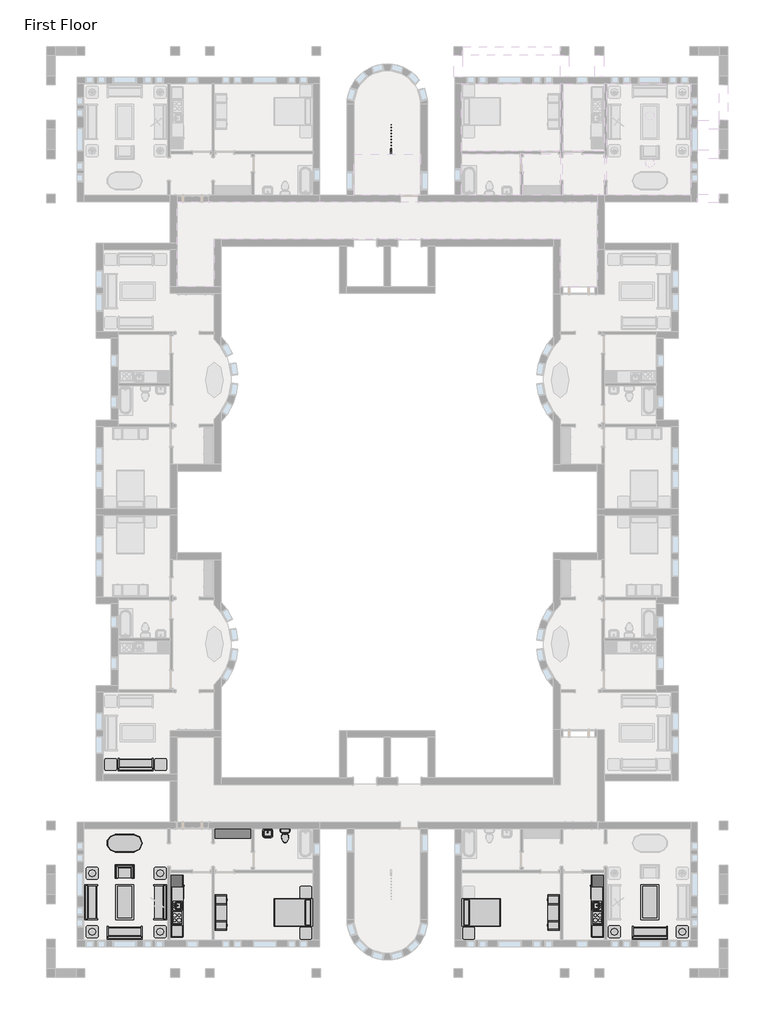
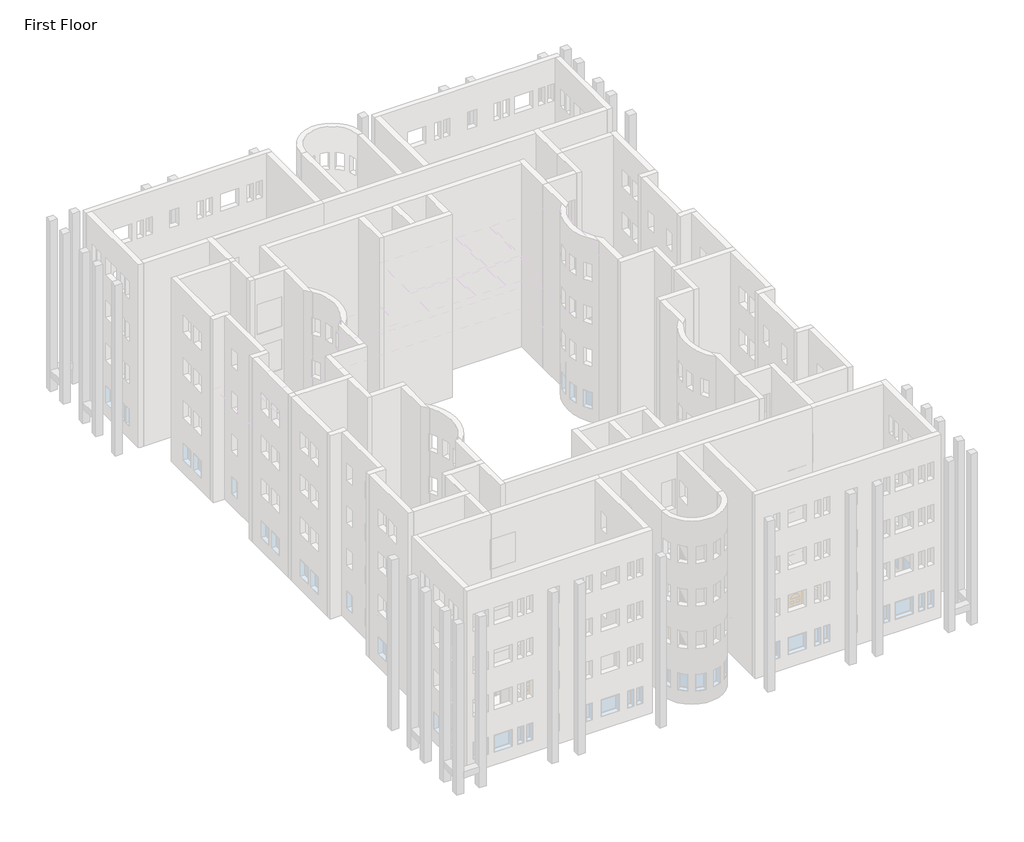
# One storey, part 19 of 21: 25 furniture elements, 2 flow terminals, 2 proxies, 1 railing.
"""IFC4 building model written with IfcOpenShell, lengths in millimetres."""

from ifc_helpers import new_model, si_unit, frame, origin, place, context, project, spatial, polyline, outline, extrude, transform, mapped, element, save
from components import proxy_64a468c4, proxy_b7eaed23, flow_terminal_0aeb31e3, toilet_domestic_3d_toilet_domestic_3d_f7549cf7, toilet_domestic_3d_toilet_domestic_3d_183bbd19, furniture_096e7f55, furniture_097b173b, chair_corbu_chair_corbu_2764bdef, furniture_7c473f12, furniture_ddc78764, furniture_328d9d47, furniture_4ef38d96, furniture_dde8a40a, furniture_cd93a443, furniture_c9413244, furniture_2c34a4f9, furniture_3a588284, furniture_1befe2a2

model = new_model("IFC4")

# Units and contexts
model_context = context("Model", 3, world=origin())
ifc_project = project(units=[si_unit("LENGTHUNIT", "METRE", prefix="MILLI")], contexts=[model_context])

# Site, building, storey
site = spatial("IfcSite", under=ifc_project)
building = spatial("IfcBuilding", under=site)
storey = spatial("IfcBuildingStorey", under=building, Name="First Floor", Elevation=0.0)

# Proxies
placement = place(None, origin())
proxy_shape = proxy_64a468c4(model_context)
element("IfcBuildingElementProxy", 1, Name="Kitchenette - Medium : 8'6\"", ObjectType="Kitchenette - Medium : 8'6\"", at=placement, inside=storey, context=model_context, shape_type="MappedRepresentation", body=[
    mapped(proxy_shape, transform((-26236.5839563, -32528.6822699, 0.0), x_axis=(0.0, 1.0, 0.0), y_axis=(-1.0, 0.0, 0.0), z_axis=(0.0, 0.0, 1.0))),
])
proxy_2_shape = proxy_b7eaed23(model_context)
element("IfcBuildingElementProxy", 2, Name="Kitchenette - Medium : 8'6\"", ObjectType="Kitchenette - Medium : 8'6\"", at=placement, inside=storey, context=model_context, shape_type="MappedRepresentation", body=[
    mapped(proxy_2_shape, transform((-3887.7589563, -32528.6822699, 0.0), x_axis=(0.0, 1.0, 0.0), y_axis=(-1.0, 0.0, 0.0), z_axis=(0.0, 0.0, 1.0))),
])

# Flow terminals
flow_terminal_shape = flow_terminal_0aeb31e3(model_context)
element("IfcFlowTerminal", 3, ObjectType="Sink Vanity-Square : 24\" x 19\"", at=placement, inside=storey, context=model_context, shape_type="MappedRepresentation", body=[
    mapped(flow_terminal_shape, transform((-21259.5856969, -28397.4762144, 0.0), x_axis=(1.0, 0.0, 0.0), y_axis=(0.0, 1.0, 0.0), z_axis=(0.0, 0.0, 1.0))),
])
toilet_domestic_3d_toilet_domestic_3d_shape = toilet_domestic_3d_toilet_domestic_3d_f7549cf7(model_context)
toilet_domestic_3d_toilet_domestic_3d_2_shape = toilet_domestic_3d_toilet_domestic_3d_183bbd19(model_context)
element("IfcFlowTerminal", 4, ObjectType="Toilet-Domestic-3D : Toilet-Domestic-3D", at=placement, inside=storey, context=model_context, shape_type="MappedRepresentation", body=[
    mapped(toilet_domestic_3d_toilet_domestic_3d_shape, transform((-20342.1962539, -28631.7530376, 0.0), x_axis=(1.0, 0.0, 0.0), y_axis=(0.0, 1.0, 0.0), z_axis=(0.0, 0.0, 1.0))),
    mapped(toilet_domestic_3d_toilet_domestic_3d_2_shape, transform((-20342.1962539, -28631.7530376, 0.0), x_axis=(1.0, 0.0, 0.0), y_axis=(0.0, 1.0, 0.0), z_axis=(0.0, 0.0, 1.0))),
])

# Furniture
furniture_shape = furniture_096e7f55(model_context)
element("IfcFurniture", 5, ObjectType="Bed-Shaker : Double 56\" x 78\"", at=placement, inside=storey, context=model_context, shape_type="MappedRepresentation", body=[
    mapped(furniture_shape, transform((-18941.1446324, -32562.7621827, 0.0), x_axis=(0.0, -1.0, 0.0), y_axis=(1.0, 0.0, 0.0), z_axis=(0.0, 0.0, 1.0))),
])
furniture_2_shape = furniture_097b173b(model_context)
element("IfcFurniture", 6, ObjectType="Bed-Shaker : Double 56\" x 78\"", at=placement, inside=storey, context=model_context, shape_type="MappedRepresentation", body=[
    mapped(furniture_2_shape, transform((-11183.1982802, -32562.7621827, 0.0), x_axis=(0.0, -1.0, 0.0), y_axis=(1.0, 0.0, 0.0), z_axis=(0.0, 0.0, 1.0))),
])
chair_corbu_chair_corbu_shape = chair_corbu_chair_corbu_2764bdef(model_context)
element("IfcFurniture", 7, ObjectType="Chair-Corbu : Chair-Corbu", at=placement, inside=storey, context=model_context, shape_type="MappedRepresentation", body=[
    mapped(chair_corbu_chair_corbu_shape, transform((-29210.2577268, -30884.3828625, 0.0), x_axis=(1.0, 0.0, 0.0), y_axis=(0.0, 1.0, 0.0), z_axis=(0.0, 0.0, 1.0))),
])
furniture_3_shape = furniture_7c473f12(model_context)
element("IfcFurniture", 8, ObjectType="Dresser : 72\" x 60\" x 18\"", at=placement, inside=storey, context=model_context, shape_type="MappedRepresentation", body=[
    mapped(furniture_3_shape, transform((-22779.6906965, -28095.4678592, 0.0), x_axis=(1.0, 0.0, 0.0), y_axis=(0.0, 1.0, 0.0), z_axis=(0.0, 0.0, 1.0))),
])
furniture_4_shape = furniture_ddc78764(model_context)
element("IfcFurniture", 9, ObjectType="Entertainment Center : 72\" x 72\" x 24\"", at=placement, inside=storey, context=model_context, shape_type="MappedRepresentation", body=[
    mapped(furniture_4_shape, transform((-24064.8839563, -32543.7121827, 0.0), x_axis=(0.0, 1.0, 0.0), y_axis=(-1.0, 0.0, 0.0), z_axis=(0.0, 0.0, 1.0))),
])
furniture_5_shape = furniture_328d9d47(model_context)
element("IfcFurniture", 10, ObjectType="Entertainment Center : 72\" x 72\" x 24\"", at=placement, inside=storey, context=model_context, shape_type="MappedRepresentation", body=[
    mapped(furniture_5_shape, transform((-6059.4589563, -32543.7121827, 0.0), x_axis=(0.0, 1.0, 0.0), y_axis=(-1.0, 0.0, 0.0), z_axis=(0.0, 0.0, 1.0))),
])
furniture_6_shape = furniture_4ef38d96(model_context)
element("IfcFurniture", 11, ObjectType="Sofa : 72\"", at=placement, inside=storey, context=model_context, shape_type="MappedRepresentation", body=[
    mapped(furniture_6_shape, transform((-28566.5134645, -33432.164215, 0.0), x_axis=(-1.0, 0.0, 0.0), y_axis=(0.0, -1.0, 0.0), z_axis=(0.0, 0.0, 1.0))),
])
element("IfcFurniture", 12, ObjectType="Sofa : 72\"", at=placement, inside=storey, context=model_context, shape_type="MappedRepresentation", body=[
    mapped(furniture_6_shape, transform((-30217.929858, -32073.8888051, 0.0), x_axis=(0.0, 1.0, 0.0), y_axis=(-1.0, 0.0, 0.0), z_axis=(0.0, 0.0, 1.0))),
])
element("IfcFurniture", 13, ObjectType="Sofa : 72\"", at=placement, inside=storey, context=model_context, shape_type="MappedRepresentation", body=[
    mapped(furniture_6_shape, transform((-26954.2380547, -31933.1478215, 0.0), x_axis=(0.0, -1.0, 0.0), y_axis=(1.0, 0.0, 0.0), z_axis=(0.0, 0.0, 1.0))),
])
element("IfcFurniture", 14, ObjectType="Sofa : 72\"", at=placement, inside=storey, context=model_context, shape_type="MappedRepresentation", body=[
    mapped(furniture_6_shape, transform((-27998.4626937, -24739.7211565, 0.0), x_axis=(-1.0, 0.0, 0.0), y_axis=(0.0, -1.0, 0.0), z_axis=(0.0, 0.0, 1.0))),
])
furniture_7_shape = furniture_dde8a40a(model_context)
element("IfcFurniture", 15, ObjectType="Sofa : 72\"", at=placement, inside=storey, context=model_context, shape_type="MappedRepresentation", body=[
    mapped(furniture_7_shape, transform((-1557.8294481, -33432.164215, 0.0), x_axis=(1.0, 0.0, 0.0), y_axis=(0.0, 1.0, 0.0), z_axis=(0.0, 0.0, 1.0))),
])
furniture_8_shape = furniture_cd93a443(model_context)
element("IfcFurniture", 16, ObjectType="Table-Coffee : 36\" x 72\" x 18\"", at=placement, inside=storey, context=model_context, shape_type="MappedRepresentation", body=[
    mapped(furniture_8_shape, transform((-28541.6728785, -32021.78408, 0.0), x_axis=(0.0, 1.0, 0.0), y_axis=(-1.0, 0.0, 0.0), z_axis=(0.0, 0.0, 1.0))),
])
furniture_9_shape = furniture_c9413244(model_context)
element("IfcFurniture", 17, ObjectType="Table-Coffee : 36\" x 72\" x 18\"", at=placement, inside=storey, context=model_context, shape_type="MappedRepresentation", body=[
    mapped(furniture_9_shape, transform((-1582.6700341, -32021.78408, 0.0), x_axis=(0.0, 1.0, 0.0), y_axis=(-1.0, 0.0, 0.0), z_axis=(0.0, 0.0, 1.0))),
])
furniture_10_shape = furniture_2c34a4f9(model_context)
element("IfcFurniture", 18, ObjectType="Table-Dining Oval : 36\" x 72\"", at=placement, inside=storey, context=model_context, shape_type="MappedRepresentation", body=[
    mapped(furniture_10_shape, transform((-29038.7036284, -29313.616674, 0.0), x_axis=(-1.0, 0.0, 0.0), y_axis=(0.0, -1.0, 0.0), z_axis=(0.0, 0.0, 1.0))),
])
furniture_11_shape = furniture_3a588284(model_context)
element("IfcFurniture", 19, ObjectType="Table-End : 24\" x 24\"", at=placement, inside=storey, context=model_context, shape_type="MappedRepresentation", body=[
    mapped(furniture_11_shape, transform((-30004.750326, -33375.1183133, 0.0), x_axis=(-1.0, 0.0, 0.0), y_axis=(0.0, -1.0, 0.0), z_axis=(0.0, 0.0, 1.0))),
])
element("IfcFurniture", 20, ObjectType="Table-End : 24\" x 24\"", at=placement, inside=storey, context=model_context, shape_type="MappedRepresentation", body=[
    mapped(furniture_11_shape, transform((-26499.550326, -33375.1183133, 0.0), x_axis=(-1.0, 0.0, 0.0), y_axis=(0.0, -1.0, 0.0), z_axis=(0.0, 0.0, 1.0))),
])
element("IfcFurniture", 21, ObjectType="Table-End : 24\" x 24\"", at=placement, inside=storey, context=model_context, shape_type="MappedRepresentation", body=[
    mapped(furniture_11_shape, transform((-26499.550326, -30350.9308133, 0.0), x_axis=(-1.0, 0.0, 0.0), y_axis=(0.0, -1.0, 0.0), z_axis=(0.0, 0.0, 1.0))),
])
element("IfcFurniture", 22, ObjectType="Table-End : 24\" x 24\"", at=placement, inside=storey, context=model_context, shape_type="MappedRepresentation", body=[
    mapped(furniture_11_shape, transform((-30004.750326, -30350.9308133, 0.0), x_axis=(-1.0, 0.0, 0.0), y_axis=(0.0, -1.0, 0.0), z_axis=(0.0, 0.0, 1.0))),
])
element("IfcFurniture", 23, ObjectType="Table-End : 24\" x 24\"", at=placement, inside=storey, context=model_context, shape_type="MappedRepresentation", body=[
    mapped(furniture_11_shape, transform((-18960.1082771, -33446.9603623, 0.0), x_axis=(-1.0, 0.0, 0.0), y_axis=(0.0, -1.0, 0.0), z_axis=(0.0, 0.0, 1.0))),
])
element("IfcFurniture", 24, ObjectType="Table-End : 24\" x 24\"", at=placement, inside=storey, context=model_context, shape_type="MappedRepresentation", body=[
    mapped(furniture_11_shape, transform((-29211.8331855, -25194.4088852, 0.0), x_axis=(0.0, 1.0, 0.0), y_axis=(-1.0, 0.0, 0.0), z_axis=(0.0, 0.0, 1.0))),
])
furniture_12_shape = furniture_1befe2a2(model_context)
element("IfcFurniture", 25, ObjectType="Table-End : 24\" x 24\"", at=placement, inside=storey, context=model_context, shape_type="MappedRepresentation", body=[
    mapped(furniture_12_shape, transform((-119.5925866, -33375.1183133, 0.0), x_axis=(1.0, 0.0, 0.0), y_axis=(0.0, 1.0, 0.0), z_axis=(0.0, 0.0, 1.0))),
])
element("IfcFurniture", 26, ObjectType="Table-End : 24\" x 24\"", at=placement, inside=storey, context=model_context, shape_type="MappedRepresentation", body=[
    mapped(furniture_12_shape, transform((-3624.7925866, -33375.1183133, 0.0), x_axis=(1.0, 0.0, 0.0), y_axis=(0.0, 1.0, 0.0), z_axis=(0.0, 0.0, 1.0))),
])
element("IfcFurniture", 27, ObjectType="Table-End : 24\" x 24\"", at=placement, inside=storey, context=model_context, shape_type="MappedRepresentation", body=[
    mapped(furniture_12_shape, transform((-11164.2346356, -33446.9603623, 0.0), x_axis=(1.0, 0.0, 0.0), y_axis=(0.0, 1.0, 0.0), z_axis=(0.0, 0.0, 1.0))),
])
element("IfcFurniture", 28, ObjectType="Table-End : 24\" x 24\"", at=placement, inside=storey, context=model_context, shape_type="MappedRepresentation", body=[
    mapped(furniture_12_shape, transform((-18960.1082771, -31640.4640031, 0.0), x_axis=(-1.0, 0.0, 0.0), y_axis=(0.0, -1.0, 0.0), z_axis=(0.0, 0.0, 1.0))),
])
element("IfcFurniture", 29, ObjectType="Table-End : 24\" x 24\"", at=placement, inside=storey, context=model_context, shape_type="MappedRepresentation", body=[
    mapped(furniture_12_shape, transform((-26925.8331855, -25194.4088852, 0.0), x_axis=(0.0, 1.0, 0.0), y_axis=(-1.0, 0.0, 0.0), z_axis=(0.0, 0.0, 1.0))),
])

# Railing
element("IfcRailing", 30, ObjectType="Handrail - Rectangular", at=placement, inside=storey, context=model_context, shape_type="SweptSolid", body=[
    extrude(outline(polyline([(6636.2316867, 7120.3318731), (6636.2316867, 7179.7333333), (8820.6316867, 8503.6121212), (8820.6316867, 8444.2106609), (6636.2316867, 7120.3318731)])), frame((-14884.3714563, 0.0, 0.0), z_axis=(1.0, 0.0, 0.0), x_axis=(0.0, 1.0, 0.0)), (0.0, 0.0, 1.0), 50.8),
    extrude(outline(polyline([(-14833.5714563, 8871.4316867), (-14833.5714563, 8820.6316867), (-15225.6839563, 8820.6316867), (-15225.6839563, 8871.4316867), (-14833.5714563, 8871.4316867)])), frame((0.0, 0.0, 8483.6), z_axis=(0.0, 0.0, 1.0), x_axis=(1.0, 0.0, 0.0)), (0.0, 0.0, 1.0), 50.8),
    extrude(outline(polyline([(8871.4316867, 8703.7333333), (8871.4316867, 8644.3318731), (6636.2316867, 9998.9985397), (6636.2316867, 10058.4), (8871.4316867, 8703.7333333)])), frame((-15276.4839563, 0.0, 0.0), z_axis=(1.0, 0.0, 0.0), x_axis=(0.0, 1.0, 0.0)), (0.0, 0.0, 1.0), 50.8),
    extrude(outline(polyline([(6721.9566867, 9947.0439943), (6721.9566867, 9134.8266332), (6702.9066867, 9146.3720877), (6702.9066867, 9958.5894488), (6721.9566867, 9947.0439943)])), frame((-15260.6089563, 0.0, 0.0), z_axis=(1.0, 0.0, 0.0), x_axis=(0.0, 1.0, 0.0)), (0.0, 0.0, 1.0), 19.05),
    extrude(outline(polyline([(6874.3566867, 9854.6803579), (6874.3566867, 9042.4629968), (6855.3066867, 9054.0084513), (6855.3066867, 9866.2258125), (6874.3566867, 9854.6803579)])), frame((-15260.6089563, 0.0, 0.0), z_axis=(1.0, 0.0, 0.0), x_axis=(0.0, 1.0, 0.0)), (0.0, 0.0, 1.0), 19.05),
    extrude(outline(polyline([(7026.7566867, 9762.3167215), (7026.7566867, 8950.0993604), (7007.7066867, 8961.644815), (7007.7066867, 9773.8621761), (7026.7566867, 9762.3167215)])), frame((-15260.6089563, 0.0, 0.0), z_axis=(1.0, 0.0, 0.0), x_axis=(0.0, 1.0, 0.0)), (0.0, 0.0, 1.0), 19.05),
    extrude(outline(polyline([(7179.1566867, 9669.9530852), (7179.1566867, 8857.7357241), (7160.1066867, 8869.2811786), (7160.1066867, 9681.4985397), (7179.1566867, 9669.9530852)])), frame((-15260.6089563, 0.0, 0.0), z_axis=(1.0, 0.0, 0.0), x_axis=(0.0, 1.0, 0.0)), (0.0, 0.0, 1.0), 19.05),
    extrude(outline(polyline([(7331.5566867, 9577.5894488), (7331.5566867, 8765.3720877), (7312.5066867, 8776.9175422), (7312.5066867, 9589.1349034), (7331.5566867, 9577.5894488)])), frame((-15260.6089563, 0.0, 0.0), z_axis=(1.0, 0.0, 0.0), x_axis=(0.0, 1.0, 0.0)), (0.0, 0.0, 1.0), 19.05),
    extrude(outline(polyline([(7483.9566867, 9485.2258125), (7483.9566867, 8673.0084513), (7464.9066867, 8684.5539059), (7464.9066867, 9496.771267), (7483.9566867, 9485.2258125)])), frame((-15260.6089563, 0.0, 0.0), z_axis=(1.0, 0.0, 0.0), x_axis=(0.0, 1.0, 0.0)), (0.0, 0.0, 1.0), 19.05),
    extrude(outline(polyline([(7636.3566867, 9392.8621761), (7636.3566867, 8580.644815), (7617.3066867, 8592.1902695), (7617.3066867, 9404.4076306), (7636.3566867, 9392.8621761)])), frame((-15260.6089563, 0.0, 0.0), z_axis=(1.0, 0.0, 0.0), x_axis=(0.0, 1.0, 0.0)), (0.0, 0.0, 1.0), 19.05),
    extrude(outline(polyline([(7788.7566867, 9300.4985397), (7788.7566867, 8488.2811786), (7769.7066867, 8499.8266332), (7769.7066867, 9312.0439943), (7788.7566867, 9300.4985397)])), frame((-15260.6089563, 0.0, 0.0), z_axis=(1.0, 0.0, 0.0), x_axis=(0.0, 1.0, 0.0)), (0.0, 0.0, 1.0), 19.05),
    extrude(outline(polyline([(7941.1566867, 9208.1349034), (7941.1566867, 8395.9175422), (7922.1066867, 8407.4629968), (7922.1066867, 9219.6803579), (7941.1566867, 9208.1349034)])), frame((-15260.6089563, 0.0, 0.0), z_axis=(1.0, 0.0, 0.0), x_axis=(0.0, 1.0, 0.0)), (0.0, 0.0, 1.0), 19.05),
    extrude(outline(polyline([(8093.5566867, 9115.771267), (8093.5566867, 8303.5539059), (8074.5066867, 8315.0993604), (8074.5066867, 9127.3167215), (8093.5566867, 9115.771267)])), frame((-15260.6089563, 0.0, 0.0), z_axis=(1.0, 0.0, 0.0), x_axis=(0.0, 1.0, 0.0)), (0.0, 0.0, 1.0), 19.05),
    extrude(outline(polyline([(8245.9566867, 9023.4076306), (8245.9566867, 8211.1902695), (8226.9066867, 8222.7357241), (8226.9066867, 9034.9530852), (8245.9566867, 9023.4076306)])), frame((-15260.6089563, 0.0, 0.0), z_axis=(1.0, 0.0, 0.0), x_axis=(0.0, 1.0, 0.0)), (0.0, 0.0, 1.0), 19.05),
    extrude(outline(polyline([(8398.3566867, 8931.0439943), (8398.3566867, 8118.8266332), (8379.3066867, 8130.3720877), (8379.3066867, 8942.5894488), (8398.3566867, 8931.0439943)])), frame((-15260.6089563, 0.0, 0.0), z_axis=(1.0, 0.0, 0.0), x_axis=(0.0, 1.0, 0.0)), (0.0, 0.0, 1.0), 19.05),
    extrude(outline(polyline([(8550.7566867, 8838.6803579), (8550.7566867, 8026.4629968), (8531.7066867, 8038.0084513), (8531.7066867, 8850.2258125), (8550.7566867, 8838.6803579)])), frame((-15260.6089563, 0.0, 0.0), z_axis=(1.0, 0.0, 0.0), x_axis=(0.0, 1.0, 0.0)), (0.0, 0.0, 1.0), 19.05),
    extrude(outline(polyline([(8703.1566867, 8746.3167215), (8703.1566867, 7934.0993604), (8684.1066867, 7945.644815), (8684.1066867, 8757.8621761), (8703.1566867, 8746.3167215)])), frame((-15260.6089563, 0.0, 0.0), z_axis=(1.0, 0.0, 0.0), x_axis=(0.0, 1.0, 0.0)), (0.0, 0.0, 1.0), 19.05),
    extrude(outline(polyline([(-15154.2464563, 8836.5066867), (-15173.2964563, 8836.5066867), (-15173.2964563, 8855.5566867), (-15154.2464563, 8855.5566867), (-15154.2464563, 8836.5066867)])), frame((0.0, 0.0, 7696.2), z_axis=(0.0, 0.0, 1.0), x_axis=(1.0, 0.0, 0.0)), (0.0, 0.0, 1.0), 787.4),
    extrude(outline(polyline([(-15001.8464563, 8836.5066867), (-15020.8964563, 8836.5066867), (-15020.8964563, 8855.5566867), (-15001.8464563, 8855.5566867), (-15001.8464563, 8836.5066867)])), frame((0.0, 0.0, 7696.2), z_axis=(0.0, 0.0, 1.0), x_axis=(1.0, 0.0, 0.0)), (0.0, 0.0, 1.0), 787.4),
    extrude(outline(polyline([(8779.3566867, 8419.1955094), (8779.3566867, 7606.9781483), (8760.3066867, 7595.4326938), (8760.3066867, 8407.6500549), (8779.3566867, 8419.1955094)])), frame((-14868.4964563, 0.0, 0.0), z_axis=(1.0, 0.0, 0.0), x_axis=(0.0, 1.0, 0.0)), (0.0, 0.0, 1.0), 19.05),
    extrude(outline(polyline([(8626.9566867, 8326.8318731), (8626.9566867, 7514.6145119), (8607.9066867, 7503.0690574), (8607.9066867, 8315.2864185), (8626.9566867, 8326.8318731)])), frame((-14868.4964563, 0.0, 0.0), z_axis=(1.0, 0.0, 0.0), x_axis=(0.0, 1.0, 0.0)), (0.0, 0.0, 1.0), 19.05),
    extrude(outline(polyline([(8474.5566867, 8234.4682367), (8474.5566867, 7422.2508756), (8455.5066867, 7410.705421), (8455.5066867, 8222.9227822), (8474.5566867, 8234.4682367)])), frame((-14868.4964563, 0.0, 0.0), z_axis=(1.0, 0.0, 0.0), x_axis=(0.0, 1.0, 0.0)), (0.0, 0.0, 1.0), 19.05),
    extrude(outline(polyline([(8322.1566867, 8142.1046003), (8322.1566867, 7329.8872392), (8303.1066867, 7318.3417847), (8303.1066867, 8130.5591458), (8322.1566867, 8142.1046003)])), frame((-14868.4964563, 0.0, 0.0), z_axis=(1.0, 0.0, 0.0), x_axis=(0.0, 1.0, 0.0)), (0.0, 0.0, 1.0), 19.05),
    extrude(outline(polyline([(8169.7566867, 8049.740964), (8169.7566867, 7237.5236029), (8150.7066867, 7225.9781483), (8150.7066867, 8038.1955094), (8169.7566867, 8049.740964)])), frame((-14868.4964563, 0.0, 0.0), z_axis=(1.0, 0.0, 0.0), x_axis=(0.0, 1.0, 0.0)), (0.0, 0.0, 1.0), 19.05),
    extrude(outline(polyline([(8017.3566867, 7957.3773276), (8017.3566867, 7145.1599665), (7998.3066867, 7133.6145119), (7998.3066867, 7945.8318731), (8017.3566867, 7957.3773276)])), frame((-14868.4964563, 0.0, 0.0), z_axis=(1.0, 0.0, 0.0), x_axis=(0.0, 1.0, 0.0)), (0.0, 0.0, 1.0), 19.05),
    extrude(outline(polyline([(7864.9566867, 7865.0136912), (7864.9566867, 7052.7963301), (7845.9066867, 7041.2508756), (7845.9066867, 7853.4682367), (7864.9566867, 7865.0136912)])), frame((-14868.4964563, 0.0, 0.0), z_axis=(1.0, 0.0, 0.0), x_axis=(0.0, 1.0, 0.0)), (0.0, 0.0, 1.0), 19.05),
    extrude(outline(polyline([(7712.5566867, 7772.6500549), (7712.5566867, 6960.4326938), (7693.5066867, 6948.8872392), (7693.5066867, 7761.1046003), (7712.5566867, 7772.6500549)])), frame((-14868.4964563, 0.0, 0.0), z_axis=(1.0, 0.0, 0.0), x_axis=(0.0, 1.0, 0.0)), (0.0, 0.0, 1.0), 19.05),
    extrude(outline(polyline([(7560.1566867, 7680.2864185), (7560.1566867, 6868.0690574), (7541.1066867, 6856.5236029), (7541.1066867, 7668.740964), (7560.1566867, 7680.2864185)])), frame((-14868.4964563, 0.0, 0.0), z_axis=(1.0, 0.0, 0.0), x_axis=(0.0, 1.0, 0.0)), (0.0, 0.0, 1.0), 19.05),
    extrude(outline(polyline([(7407.7566867, 7587.9227822), (7407.7566867, 6775.705421), (7388.7066867, 6764.1599665), (7388.7066867, 7576.3773276), (7407.7566867, 7587.9227822)])), frame((-14868.4964563, 0.0, 0.0), z_axis=(1.0, 0.0, 0.0), x_axis=(0.0, 1.0, 0.0)), (0.0, 0.0, 1.0), 19.05),
    extrude(outline(polyline([(7255.3566867, 7495.5591458), (7255.3566867, 6683.3417847), (7236.3066867, 6671.7963301), (7236.3066867, 7484.0136912), (7255.3566867, 7495.5591458)])), frame((-14868.4964563, 0.0, 0.0), z_axis=(1.0, 0.0, 0.0), x_axis=(0.0, 1.0, 0.0)), (0.0, 0.0, 1.0), 19.05),
    extrude(outline(polyline([(7102.9566867, 7403.1955094), (7102.9566867, 6590.9781483), (7083.9066867, 6579.4326938), (7083.9066867, 7391.6500549), (7102.9566867, 7403.1955094)])), frame((-14868.4964563, 0.0, 0.0), z_axis=(1.0, 0.0, 0.0), x_axis=(0.0, 1.0, 0.0)), (0.0, 0.0, 1.0), 19.05),
    extrude(outline(polyline([(6950.5566867, 7310.8318731), (6950.5566867, 6498.6145119), (6931.5066867, 6487.0690574), (6931.5066867, 7299.2864185), (6950.5566867, 7310.8318731)])), frame((-14868.4964563, 0.0, 0.0), z_axis=(1.0, 0.0, 0.0), x_axis=(0.0, 1.0, 0.0)), (0.0, 0.0, 1.0), 19.05),
    extrude(outline(polyline([(6798.1566867, 7218.4682367), (6798.1566867, 6406.2508756), (6779.1066867, 6394.705421), (6779.1066867, 7206.9227822), (6798.1566867, 7218.4682367)])), frame((-14868.4964563, 0.0, 0.0), z_axis=(1.0, 0.0, 0.0), x_axis=(0.0, 1.0, 0.0)), (0.0, 0.0, 1.0), 19.05),
    extrude(outline(polyline([(8855.5566867, 8653.9530852), (8855.5566867, 7841.7357241), (8836.5066867, 7853.2811786), (8836.5066867, 8665.4985397), (8855.5566867, 8653.9530852)])), frame((-15260.6089563, 0.0, 0.0), z_axis=(1.0, 0.0, 0.0), x_axis=(0.0, 1.0, 0.0)), (0.0, 0.0, 1.0), 19.05),
    extrude(outline(polyline([(-14849.4464563, 8836.5066867), (-14868.4964563, 8836.5066867), (-14868.4964563, 8855.5566867), (-14849.4464563, 8855.5566867), (-14849.4464563, 8836.5066867)])), frame((0.0, 0.0, 7696.2), z_axis=(0.0, 0.0, 1.0), x_axis=(1.0, 0.0, 0.0)), (0.0, 0.0, 1.0), 787.4),
    extrude(outline(polyline([(6655.2816867, 9987.4530852), (6655.2816867, 9175.2357241), (6636.2316867, 9186.7811786), (6636.2316867, 9998.9985397), (6655.2816867, 9987.4530852)])), frame((-15260.6089563, 0.0, 0.0), z_axis=(1.0, 0.0, 0.0), x_axis=(0.0, 1.0, 0.0)), (0.0, 0.0, 1.0), 19.05),
    extrude(outline(polyline([(6655.2816867, 7131.8773276), (6655.2816867, 6319.6599665), (6636.2316867, 6308.1145119), (6636.2316867, 7120.3318731), (6655.2816867, 7131.8773276)])), frame((-14868.4964563, 0.0, 0.0), z_axis=(1.0, 0.0, 0.0), x_axis=(0.0, 1.0, 0.0)), (0.0, 0.0, 1.0), 19.05),
    extrude(outline(polyline([(6636.2316867, 4072.3318731), (6636.2316867, 4131.7333333), (8820.6316867, 5455.6121212), (8820.6316867, 5396.210661), (6636.2316867, 4072.3318731)])), frame((-14884.3714563, 0.0, 0.0), z_axis=(1.0, 0.0, 0.0), x_axis=(0.0, 1.0, 0.0)), (0.0, 0.0, 1.0), 50.8),
    extrude(outline(polyline([(-14833.5714563, 8871.4316867), (-14833.5714563, 8820.6316867), (-15225.6839563, 8820.6316867), (-15225.6839563, 8871.4316867), (-14833.5714563, 8871.4316867)])), frame((0.0, 0.0, 5435.6), z_axis=(0.0, 0.0, 1.0), x_axis=(1.0, 0.0, 0.0)), (0.0, 0.0, 1.0), 50.8),
    extrude(outline(polyline([(8871.4316867, 5655.7333333), (8871.4316867, 5596.3318731), (6636.2316867, 6950.9985397), (6636.2316867, 7010.4), (8871.4316867, 5655.7333333)])), frame((-15276.4839563, 0.0, 0.0), z_axis=(1.0, 0.0, 0.0), x_axis=(0.0, 1.0, 0.0)), (0.0, 0.0, 1.0), 50.8),
    extrude(outline(polyline([(6721.9566867, 6899.0439943), (6721.9566867, 6086.8266332), (6702.9066867, 6098.3720877), (6702.9066867, 6910.5894488), (6721.9566867, 6899.0439943)])), frame((-15260.6089563, 0.0, 0.0), z_axis=(1.0, 0.0, 0.0), x_axis=(0.0, 1.0, 0.0)), (0.0, 0.0, 1.0), 19.05),
    extrude(outline(polyline([(6874.3566867, 6806.6803579), (6874.3566867, 5994.4629968), (6855.3066867, 6006.0084513), (6855.3066867, 6818.2258125), (6874.3566867, 6806.6803579)])), frame((-15260.6089563, 0.0, 0.0), z_axis=(1.0, 0.0, 0.0), x_axis=(0.0, 1.0, 0.0)), (0.0, 0.0, 1.0), 19.05),
    extrude(outline(polyline([(7026.7566867, 6714.3167216), (7026.7566867, 5902.0993604), (7007.7066867, 5913.644815), (7007.7066867, 6725.8621761), (7026.7566867, 6714.3167216)])), frame((-15260.6089563, 0.0, 0.0), z_axis=(1.0, 0.0, 0.0), x_axis=(0.0, 1.0, 0.0)), (0.0, 0.0, 1.0), 19.05),
    extrude(outline(polyline([(7179.1566867, 6621.9530852), (7179.1566867, 5809.7357241), (7160.1066867, 5821.2811786), (7160.1066867, 6633.4985397), (7179.1566867, 6621.9530852)])), frame((-15260.6089563, 0.0, 0.0), z_axis=(1.0, 0.0, 0.0), x_axis=(0.0, 1.0, 0.0)), (0.0, 0.0, 1.0), 19.05),
    extrude(outline(polyline([(7331.5566867, 6529.5894488), (7331.5566867, 5717.3720877), (7312.5066867, 5728.9175423), (7312.5066867, 6541.1349034), (7331.5566867, 6529.5894488)])), frame((-15260.6089563, 0.0, 0.0), z_axis=(1.0, 0.0, 0.0), x_axis=(0.0, 1.0, 0.0)), (0.0, 0.0, 1.0), 19.05),
    extrude(outline(polyline([(7483.9566867, 6437.2258125), (7483.9566867, 5625.0084513), (7464.9066867, 5636.5539059), (7464.9066867, 6448.771267), (7483.9566867, 6437.2258125)])), frame((-15260.6089563, 0.0, 0.0), z_axis=(1.0, 0.0, 0.0), x_axis=(0.0, 1.0, 0.0)), (0.0, 0.0, 1.0), 19.05),
    extrude(outline(polyline([(7636.3566867, 6344.8621761), (7636.3566867, 5532.644815), (7617.3066867, 5544.1902695), (7617.3066867, 6356.4076306), (7636.3566867, 6344.8621761)])), frame((-15260.6089563, 0.0, 0.0), z_axis=(1.0, 0.0, 0.0), x_axis=(0.0, 1.0, 0.0)), (0.0, 0.0, 1.0), 19.05),
    extrude(outline(polyline([(7788.7566867, 6252.4985397), (7788.7566867, 5440.2811786), (7769.7066867, 5451.8266332), (7769.7066867, 6264.0439943), (7788.7566867, 6252.4985397)])), frame((-15260.6089563, 0.0, 0.0), z_axis=(1.0, 0.0, 0.0), x_axis=(0.0, 1.0, 0.0)), (0.0, 0.0, 1.0), 19.05),
    extrude(outline(polyline([(7941.1566867, 6160.1349034), (7941.1566867, 5347.9175423), (7922.1066867, 5359.4629968), (7922.1066867, 6171.6803579), (7941.1566867, 6160.1349034)])), frame((-15260.6089563, 0.0, 0.0), z_axis=(1.0, 0.0, 0.0), x_axis=(0.0, 1.0, 0.0)), (0.0, 0.0, 1.0), 19.05),
    extrude(outline(polyline([(8093.5566867, 6067.771267), (8093.5566867, 5255.5539059), (8074.5066867, 5267.0993604), (8074.5066867, 6079.3167216), (8093.5566867, 6067.771267)])), frame((-15260.6089563, 0.0, 0.0), z_axis=(1.0, 0.0, 0.0), x_axis=(0.0, 1.0, 0.0)), (0.0, 0.0, 1.0), 19.05),
    extrude(outline(polyline([(8245.9566867, 5975.4076306), (8245.9566867, 5163.1902695), (8226.9066867, 5174.7357241), (8226.9066867, 5986.9530852), (8245.9566867, 5975.4076306)])), frame((-15260.6089563, 0.0, 0.0), z_axis=(1.0, 0.0, 0.0), x_axis=(0.0, 1.0, 0.0)), (0.0, 0.0, 1.0), 19.05),
    extrude(outline(polyline([(8398.3566867, 5883.0439943), (8398.3566867, 5070.8266332), (8379.3066867, 5082.3720877), (8379.3066867, 5894.5894488), (8398.3566867, 5883.0439943)])), frame((-15260.6089563, 0.0, 0.0), z_axis=(1.0, 0.0, 0.0), x_axis=(0.0, 1.0, 0.0)), (0.0, 0.0, 1.0), 19.05),
    extrude(outline(polyline([(8550.7566867, 5790.6803579), (8550.7566867, 4978.4629968), (8531.7066867, 4990.0084513), (8531.7066867, 5802.2258125), (8550.7566867, 5790.6803579)])), frame((-15260.6089563, 0.0, 0.0), z_axis=(1.0, 0.0, 0.0), x_axis=(0.0, 1.0, 0.0)), (0.0, 0.0, 1.0), 19.05),
    extrude(outline(polyline([(8703.1566867, 5698.3167216), (8703.1566867, 4886.0993604), (8684.1066867, 4897.644815), (8684.1066867, 5709.8621761), (8703.1566867, 5698.3167216)])), frame((-15260.6089563, 0.0, 0.0), z_axis=(1.0, 0.0, 0.0), x_axis=(0.0, 1.0, 0.0)), (0.0, 0.0, 1.0), 19.05),
    extrude(outline(polyline([(-15154.2464563, 8836.5066867), (-15173.2964563, 8836.5066867), (-15173.2964563, 8855.5566867), (-15154.2464563, 8855.5566867), (-15154.2464563, 8836.5066867)])), frame((0.0, 0.0, 4648.2), z_axis=(0.0, 0.0, 1.0), x_axis=(1.0, 0.0, 0.0)), (0.0, 0.0, 1.0), 787.4),
    extrude(outline(polyline([(-15001.8464563, 8836.5066867), (-15020.8964563, 8836.5066867), (-15020.8964563, 8855.5566867), (-15001.8464563, 8855.5566867), (-15001.8464563, 8836.5066867)])), frame((0.0, 0.0, 4648.2), z_axis=(0.0, 0.0, 1.0), x_axis=(1.0, 0.0, 0.0)), (0.0, 0.0, 1.0), 787.4),
    extrude(outline(polyline([(8779.3566867, 5371.1955094), (8779.3566867, 4558.9781483), (8760.3066867, 4547.4326938), (8760.3066867, 5359.6500549), (8779.3566867, 5371.1955094)])), frame((-14868.4964563, 0.0, 0.0), z_axis=(1.0, 0.0, 0.0), x_axis=(0.0, 1.0, 0.0)), (0.0, 0.0, 1.0), 19.05),
    extrude(outline(polyline([(8626.9566867, 5278.8318731), (8626.9566867, 4466.614512), (8607.9066867, 4455.0690574), (8607.9066867, 5267.2864185), (8626.9566867, 5278.8318731)])), frame((-14868.4964563, 0.0, 0.0), z_axis=(1.0, 0.0, 0.0), x_axis=(0.0, 1.0, 0.0)), (0.0, 0.0, 1.0), 19.05),
    extrude(outline(polyline([(8474.5566867, 5186.4682367), (8474.5566867, 4374.2508756), (8455.5066867, 4362.705421), (8455.5066867, 5174.9227822), (8474.5566867, 5186.4682367)])), frame((-14868.4964563, 0.0, 0.0), z_axis=(1.0, 0.0, 0.0), x_axis=(0.0, 1.0, 0.0)), (0.0, 0.0, 1.0), 19.05),
    extrude(outline(polyline([(8322.1566867, 5094.1046003), (8322.1566867, 4281.8872392), (8303.1066867, 4270.3417847), (8303.1066867, 5082.5591458), (8322.1566867, 5094.1046003)])), frame((-14868.4964563, 0.0, 0.0), z_axis=(1.0, 0.0, 0.0), x_axis=(0.0, 1.0, 0.0)), (0.0, 0.0, 1.0), 19.05),
    extrude(outline(polyline([(8169.7566867, 5001.740964), (8169.7566867, 4189.5236029), (8150.7066867, 4177.9781483), (8150.7066867, 4990.1955094), (8169.7566867, 5001.740964)])), frame((-14868.4964563, 0.0, 0.0), z_axis=(1.0, 0.0, 0.0), x_axis=(0.0, 1.0, 0.0)), (0.0, 0.0, 1.0), 19.05),
    extrude(outline(polyline([(8017.3566867, 4909.3773276), (8017.3566867, 4097.1599665), (7998.3066867, 4085.614512), (7998.3066867, 4897.8318731), (8017.3566867, 4909.3773276)])), frame((-14868.4964563, 0.0, 0.0), z_axis=(1.0, 0.0, 0.0), x_axis=(0.0, 1.0, 0.0)), (0.0, 0.0, 1.0), 19.05),
    extrude(outline(polyline([(7864.9566867, 4817.0136913), (7864.9566867, 4004.7963301), (7845.9066867, 3993.2508756), (7845.9066867, 4805.4682367), (7864.9566867, 4817.0136913)])), frame((-14868.4964563, 0.0, 0.0), z_axis=(1.0, 0.0, 0.0), x_axis=(0.0, 1.0, 0.0)), (0.0, 0.0, 1.0), 19.05),
    extrude(outline(polyline([(7712.5566867, 4724.6500549), (7712.5566867, 3912.4326938), (7693.5066867, 3900.8872392), (7693.5066867, 4713.1046003), (7712.5566867, 4724.6500549)])), frame((-14868.4964563, 0.0, 0.0), z_axis=(1.0, 0.0, 0.0), x_axis=(0.0, 1.0, 0.0)), (0.0, 0.0, 1.0), 19.05),
    extrude(outline(polyline([(7560.1566867, 4632.2864185), (7560.1566867, 3820.0690574), (7541.1066867, 3808.5236029), (7541.1066867, 4620.740964), (7560.1566867, 4632.2864185)])), frame((-14868.4964563, 0.0, 0.0), z_axis=(1.0, 0.0, 0.0), x_axis=(0.0, 1.0, 0.0)), (0.0, 0.0, 1.0), 19.05),
    extrude(outline(polyline([(7407.7566867, 4539.9227822), (7407.7566867, 3727.705421), (7388.7066867, 3716.1599665), (7388.7066867, 4528.3773276), (7407.7566867, 4539.9227822)])), frame((-14868.4964563, 0.0, 0.0), z_axis=(1.0, 0.0, 0.0), x_axis=(0.0, 1.0, 0.0)), (0.0, 0.0, 1.0), 19.05),
    extrude(outline(polyline([(7255.3566867, 4447.5591458), (7255.3566867, 3635.3417847), (7236.3066867, 3623.7963301), (7236.3066867, 4436.0136913), (7255.3566867, 4447.5591458)])), frame((-14868.4964563, 0.0, 0.0), z_axis=(1.0, 0.0, 0.0), x_axis=(0.0, 1.0, 0.0)), (0.0, 0.0, 1.0), 19.05),
    extrude(outline(polyline([(7102.9566867, 4355.1955094), (7102.9566867, 3542.9781483), (7083.9066867, 3531.4326938), (7083.9066867, 4343.6500549), (7102.9566867, 4355.1955094)])), frame((-14868.4964563, 0.0, 0.0), z_axis=(1.0, 0.0, 0.0), x_axis=(0.0, 1.0, 0.0)), (0.0, 0.0, 1.0), 19.05),
    extrude(outline(polyline([(6950.5566867, 4262.8318731), (6950.5566867, 3450.614512), (6931.5066867, 3439.0690574), (6931.5066867, 4251.2864185), (6950.5566867, 4262.8318731)])), frame((-14868.4964563, 0.0, 0.0), z_axis=(1.0, 0.0, 0.0), x_axis=(0.0, 1.0, 0.0)), (0.0, 0.0, 1.0), 19.05),
    extrude(outline(polyline([(6798.1566867, 4170.4682367), (6798.1566867, 3358.2508756), (6779.1066867, 3346.705421), (6779.1066867, 4158.9227822), (6798.1566867, 4170.4682367)])), frame((-14868.4964563, 0.0, 0.0), z_axis=(1.0, 0.0, 0.0), x_axis=(0.0, 1.0, 0.0)), (0.0, 0.0, 1.0), 19.05),
    extrude(outline(polyline([(8855.5566867, 5605.9530852), (8855.5566867, 4793.7357241), (8836.5066867, 4805.2811786), (8836.5066867, 5617.4985397), (8855.5566867, 5605.9530852)])), frame((-15260.6089563, 0.0, 0.0), z_axis=(1.0, 0.0, 0.0), x_axis=(0.0, 1.0, 0.0)), (0.0, 0.0, 1.0), 19.05),
    extrude(outline(polyline([(-14849.4464563, 8836.5066867), (-14868.4964563, 8836.5066867), (-14868.4964563, 8855.5566867), (-14849.4464563, 8855.5566867), (-14849.4464563, 8836.5066867)])), frame((0.0, 0.0, 4648.2), z_axis=(0.0, 0.0, 1.0), x_axis=(1.0, 0.0, 0.0)), (0.0, 0.0, 1.0), 787.4),
    extrude(outline(polyline([(6655.2816867, 6939.4530852), (6655.2816867, 6127.2357241), (6636.2316867, 6138.7811786), (6636.2316867, 6950.9985397), (6655.2816867, 6939.4530852)])), frame((-15260.6089563, 0.0, 0.0), z_axis=(1.0, 0.0, 0.0), x_axis=(0.0, 1.0, 0.0)), (0.0, 0.0, 1.0), 19.05),
    extrude(outline(polyline([(6655.2816867, 4083.8773276), (6655.2816867, 3271.6599665), (6636.2316867, 3260.114512), (6636.2316867, 4072.3318731), (6655.2816867, 4083.8773276)])), frame((-14868.4964563, 0.0, 0.0), z_axis=(1.0, 0.0, 0.0), x_axis=(0.0, 1.0, 0.0)), (0.0, 0.0, 1.0), 19.05),
    extrude(outline(polyline([(6636.2316867, 1024.3318731), (6636.2316867, 1083.7333333), (8820.6316867, 2407.6121212), (8820.6316867, 2348.210661), (6636.2316867, 1024.3318731)])), frame((-14884.3714563, 0.0, 0.0), z_axis=(1.0, 0.0, 0.0), x_axis=(0.0, 1.0, 0.0)), (0.0, 0.0, 1.0), 50.8),
    extrude(outline(polyline([(-14833.5714563, 8871.4316867), (-14833.5714563, 8820.6316867), (-15225.6839563, 8820.6316867), (-15225.6839563, 8871.4316867), (-14833.5714563, 8871.4316867)])), frame((0.0, 0.0, 2387.6), z_axis=(0.0, 0.0, 1.0), x_axis=(1.0, 0.0, 0.0)), (0.0, 0.0, 1.0), 50.8),
    extrude(outline(polyline([(8871.4316867, 2607.7333333), (8871.4316867, 2548.3318731), (6636.2316867, 3902.9985397), (6636.2316867, 3962.4), (8871.4316867, 2607.7333333)])), frame((-15276.4839563, 0.0, 0.0), z_axis=(1.0, 0.0, 0.0), x_axis=(0.0, 1.0, 0.0)), (0.0, 0.0, 1.0), 50.8),
    extrude(outline(polyline([(6721.9566867, 3851.0439943), (6721.9566867, 3038.8266332), (6702.9066867, 3050.3720877), (6702.9066867, 3862.5894488), (6721.9566867, 3851.0439943)])), frame((-15260.6089563, 0.0, 0.0), z_axis=(1.0, 0.0, 0.0), x_axis=(0.0, 1.0, 0.0)), (0.0, 0.0, 1.0), 19.05),
    extrude(outline(polyline([(6874.3566867, 3758.6803579), (6874.3566867, 2946.4629968), (6855.3066867, 2958.0084514), (6855.3066867, 3770.2258125), (6874.3566867, 3758.6803579)])), frame((-15260.6089563, 0.0, 0.0), z_axis=(1.0, 0.0, 0.0), x_axis=(0.0, 1.0, 0.0)), (0.0, 0.0, 1.0), 19.05),
    extrude(outline(polyline([(7026.7566867, 3666.3167216), (7026.7566867, 2854.0993604), (7007.7066867, 2865.644815), (7007.7066867, 3677.8621761), (7026.7566867, 3666.3167216)])), frame((-15260.6089563, 0.0, 0.0), z_axis=(1.0, 0.0, 0.0), x_axis=(0.0, 1.0, 0.0)), (0.0, 0.0, 1.0), 19.05),
    extrude(outline(polyline([(7179.1566867, 3573.9530852), (7179.1566867, 2761.7357241), (7160.1066867, 2773.2811786), (7160.1066867, 3585.4985397), (7179.1566867, 3573.9530852)])), frame((-15260.6089563, 0.0, 0.0), z_axis=(1.0, 0.0, 0.0), x_axis=(0.0, 1.0, 0.0)), (0.0, 0.0, 1.0), 19.05),
    extrude(outline(polyline([(7331.5566867, 3481.5894488), (7331.5566867, 2669.3720877), (7312.5066867, 2680.9175423), (7312.5066867, 3493.1349034), (7331.5566867, 3481.5894488)])), frame((-15260.6089563, 0.0, 0.0), z_axis=(1.0, 0.0, 0.0), x_axis=(0.0, 1.0, 0.0)), (0.0, 0.0, 1.0), 19.05),
    extrude(outline(polyline([(7483.9566867, 3389.2258125), (7483.9566867, 2577.0084514), (7464.9066867, 2588.5539059), (7464.9066867, 3400.771267), (7483.9566867, 3389.2258125)])), frame((-15260.6089563, 0.0, 0.0), z_axis=(1.0, 0.0, 0.0), x_axis=(0.0, 1.0, 0.0)), (0.0, 0.0, 1.0), 19.05),
    extrude(outline(polyline([(7636.3566867, 3296.8621761), (7636.3566867, 2484.644815), (7617.3066867, 2496.1902695), (7617.3066867, 3308.4076307), (7636.3566867, 3296.8621761)])), frame((-15260.6089563, 0.0, 0.0), z_axis=(1.0, 0.0, 0.0), x_axis=(0.0, 1.0, 0.0)), (0.0, 0.0, 1.0), 19.05),
    extrude(outline(polyline([(7788.7566867, 3204.4985397), (7788.7566867, 2392.2811786), (7769.7066867, 2403.8266332), (7769.7066867, 3216.0439943), (7788.7566867, 3204.4985397)])), frame((-15260.6089563, 0.0, 0.0), z_axis=(1.0, 0.0, 0.0), x_axis=(0.0, 1.0, 0.0)), (0.0, 0.0, 1.0), 19.05),
    extrude(outline(polyline([(7941.1566867, 3112.1349034), (7941.1566867, 2299.9175423), (7922.1066867, 2311.4629968), (7922.1066867, 3123.6803579), (7941.1566867, 3112.1349034)])), frame((-15260.6089563, 0.0, 0.0), z_axis=(1.0, 0.0, 0.0), x_axis=(0.0, 1.0, 0.0)), (0.0, 0.0, 1.0), 19.05),
    extrude(outline(polyline([(8093.5566867, 3019.771267), (8093.5566867, 2207.5539059), (8074.5066867, 2219.0993604), (8074.5066867, 3031.3167216), (8093.5566867, 3019.771267)])), frame((-15260.6089563, 0.0, 0.0), z_axis=(1.0, 0.0, 0.0), x_axis=(0.0, 1.0, 0.0)), (0.0, 0.0, 1.0), 19.05),
    extrude(outline(polyline([(8245.9566867, 2927.4076307), (8245.9566867, 2115.1902695), (8226.9066867, 2126.7357241), (8226.9066867, 2938.9530852), (8245.9566867, 2927.4076307)])), frame((-15260.6089563, 0.0, 0.0), z_axis=(1.0, 0.0, 0.0), x_axis=(0.0, 1.0, 0.0)), (0.0, 0.0, 1.0), 19.05),
    extrude(outline(polyline([(8398.3566867, 2835.0439943), (8398.3566867, 2022.8266332), (8379.3066867, 2034.3720877), (8379.3066867, 2846.5894488), (8398.3566867, 2835.0439943)])), frame((-15260.6089563, 0.0, 0.0), z_axis=(1.0, 0.0, 0.0), x_axis=(0.0, 1.0, 0.0)), (0.0, 0.0, 1.0), 19.05),
    extrude(outline(polyline([(8550.7566867, 2742.6803579), (8550.7566867, 1930.4629968), (8531.7066867, 1942.0084514), (8531.7066867, 2754.2258125), (8550.7566867, 2742.6803579)])), frame((-15260.6089563, 0.0, 0.0), z_axis=(1.0, 0.0, 0.0), x_axis=(0.0, 1.0, 0.0)), (0.0, 0.0, 1.0), 19.05),
    extrude(outline(polyline([(8703.1566867, 2650.3167216), (8703.1566867, 1838.0993604), (8684.1066867, 1849.644815), (8684.1066867, 2661.8621761), (8703.1566867, 2650.3167216)])), frame((-15260.6089563, 0.0, 0.0), z_axis=(1.0, 0.0, 0.0), x_axis=(0.0, 1.0, 0.0)), (0.0, 0.0, 1.0), 19.05),
    extrude(outline(polyline([(-15154.2464563, 8836.5066867), (-15173.2964563, 8836.5066867), (-15173.2964563, 8855.5566867), (-15154.2464563, 8855.5566867), (-15154.2464563, 8836.5066867)])), frame((0.0, 0.0, 1600.2), z_axis=(0.0, 0.0, 1.0), x_axis=(1.0, 0.0, 0.0)), (0.0, 0.0, 1.0), 787.4),
    extrude(outline(polyline([(-15001.8464563, 8836.5066867), (-15020.8964563, 8836.5066867), (-15020.8964563, 8855.5566867), (-15001.8464563, 8855.5566867), (-15001.8464563, 8836.5066867)])), frame((0.0, 0.0, 1600.2), z_axis=(0.0, 0.0, 1.0), x_axis=(1.0, 0.0, 0.0)), (0.0, 0.0, 1.0), 787.4),
    extrude(outline(polyline([(8779.3566867, 2323.1955094), (8779.3566867, 1510.9781483), (8760.3066867, 1499.4326938), (8760.3066867, 2311.6500549), (8779.3566867, 2323.1955094)])), frame((-14868.4964563, 0.0, 0.0), z_axis=(1.0, 0.0, 0.0), x_axis=(0.0, 1.0, 0.0)), (0.0, 0.0, 1.0), 19.05),
    extrude(outline(polyline([(8626.9566867, 2230.8318731), (8626.9566867, 1418.614512), (8607.9066867, 1407.0690574), (8607.9066867, 2219.2864185), (8626.9566867, 2230.8318731)])), frame((-14868.4964563, 0.0, 0.0), z_axis=(1.0, 0.0, 0.0), x_axis=(0.0, 1.0, 0.0)), (0.0, 0.0, 1.0), 19.05),
    extrude(outline(polyline([(8474.5566867, 2138.4682367), (8474.5566867, 1326.2508756), (8455.5066867, 1314.7054211), (8455.5066867, 2126.9227822), (8474.5566867, 2138.4682367)])), frame((-14868.4964563, 0.0, 0.0), z_axis=(1.0, 0.0, 0.0), x_axis=(0.0, 1.0, 0.0)), (0.0, 0.0, 1.0), 19.05),
    extrude(outline(polyline([(8322.1566867, 2046.1046004), (8322.1566867, 1233.8872392), (8303.1066867, 1222.3417847), (8303.1066867, 2034.5591458), (8322.1566867, 2046.1046004)])), frame((-14868.4964563, 0.0, 0.0), z_axis=(1.0, 0.0, 0.0), x_axis=(0.0, 1.0, 0.0)), (0.0, 0.0, 1.0), 19.05),
    extrude(outline(polyline([(8169.7566867, 1953.740964), (8169.7566867, 1141.5236029), (8150.7066867, 1129.9781483), (8150.7066867, 1942.1955094), (8169.7566867, 1953.740964)])), frame((-14868.4964563, 0.0, 0.0), z_axis=(1.0, 0.0, 0.0), x_axis=(0.0, 1.0, 0.0)), (0.0, 0.0, 1.0), 19.05),
    extrude(outline(polyline([(8017.3566867, 1861.3773276), (8017.3566867, 1049.1599665), (7998.3066867, 1037.614512), (7998.3066867, 1849.8318731), (8017.3566867, 1861.3773276)])), frame((-14868.4964563, 0.0, 0.0), z_axis=(1.0, 0.0, 0.0), x_axis=(0.0, 1.0, 0.0)), (0.0, 0.0, 1.0), 19.05),
    extrude(outline(polyline([(7864.9566867, 1769.0136913), (7864.9566867, 956.7963301), (7845.9066867, 945.2508756), (7845.9066867, 1757.4682367), (7864.9566867, 1769.0136913)])), frame((-14868.4964563, 0.0, 0.0), z_axis=(1.0, 0.0, 0.0), x_axis=(0.0, 1.0, 0.0)), (0.0, 0.0, 1.0), 19.05),
    extrude(outline(polyline([(7712.5566867, 1676.6500549), (7712.5566867, 864.4326938), (7693.5066867, 852.8872392), (7693.5066867, 1665.1046004), (7712.5566867, 1676.6500549)])), frame((-14868.4964563, 0.0, 0.0), z_axis=(1.0, 0.0, 0.0), x_axis=(0.0, 1.0, 0.0)), (0.0, 0.0, 1.0), 19.05),
    extrude(outline(polyline([(7560.1566867, 1584.2864185), (7560.1566867, 772.0690574), (7541.1066867, 760.5236029), (7541.1066867, 1572.740964), (7560.1566867, 1584.2864185)])), frame((-14868.4964563, 0.0, 0.0), z_axis=(1.0, 0.0, 0.0), x_axis=(0.0, 1.0, 0.0)), (0.0, 0.0, 1.0), 19.05),
    extrude(outline(polyline([(7407.7566867, 1491.9227822), (7407.7566867, 679.7054211), (7388.7066867, 668.1599665), (7388.7066867, 1480.3773276), (7407.7566867, 1491.9227822)])), frame((-14868.4964563, 0.0, 0.0), z_axis=(1.0, 0.0, 0.0), x_axis=(0.0, 1.0, 0.0)), (0.0, 0.0, 1.0), 19.05),
    extrude(outline(polyline([(7255.3566867, 1399.5591458), (7255.3566867, 587.3417847), (7236.3066867, 575.7963301), (7236.3066867, 1388.0136913), (7255.3566867, 1399.5591458)])), frame((-14868.4964563, 0.0, 0.0), z_axis=(1.0, 0.0, 0.0), x_axis=(0.0, 1.0, 0.0)), (0.0, 0.0, 1.0), 19.05),
    extrude(outline(polyline([(7102.9566867, 1307.1955094), (7102.9566867, 494.9781483), (7083.9066867, 483.4326938), (7083.9066867, 1295.6500549), (7102.9566867, 1307.1955094)])), frame((-14868.4964563, 0.0, 0.0), z_axis=(1.0, 0.0, 0.0), x_axis=(0.0, 1.0, 0.0)), (0.0, 0.0, 1.0), 19.05),
    extrude(outline(polyline([(6950.5566867, 1214.8318731), (6950.5566867, 402.614512), (6931.5066867, 391.0690574), (6931.5066867, 1203.2864185), (6950.5566867, 1214.8318731)])), frame((-14868.4964563, 0.0, 0.0), z_axis=(1.0, 0.0, 0.0), x_axis=(0.0, 1.0, 0.0)), (0.0, 0.0, 1.0), 19.05),
    extrude(outline(polyline([(6798.1566867, 1122.4682367), (6798.1566867, 310.2508756), (6779.1066867, 298.7054211), (6779.1066867, 1110.9227822), (6798.1566867, 1122.4682367)])), frame((-14868.4964563, 0.0, 0.0), z_axis=(1.0, 0.0, 0.0), x_axis=(0.0, 1.0, 0.0)), (0.0, 0.0, 1.0), 19.05),
    extrude(outline(polyline([(8855.5566867, 2557.9530852), (8855.5566867, 1745.7357241), (8836.5066867, 1757.2811786), (8836.5066867, 2569.4985397), (8855.5566867, 2557.9530852)])), frame((-15260.6089563, 0.0, 0.0), z_axis=(1.0, 0.0, 0.0), x_axis=(0.0, 1.0, 0.0)), (0.0, 0.0, 1.0), 19.05),
    extrude(outline(polyline([(-14849.4464563, 8836.5066867), (-14868.4964563, 8836.5066867), (-14868.4964563, 8855.5566867), (-14849.4464563, 8855.5566867), (-14849.4464563, 8836.5066867)])), frame((0.0, 0.0, 1600.2), z_axis=(0.0, 0.0, 1.0), x_axis=(1.0, 0.0, 0.0)), (0.0, 0.0, 1.0), 787.4),
    extrude(outline(polyline([(6655.2816867, 3891.4530852), (6655.2816867, 3079.2357241), (6636.2316867, 3090.7811786), (6636.2316867, 3902.9985397), (6655.2816867, 3891.4530852)])), frame((-15260.6089563, 0.0, 0.0), z_axis=(1.0, 0.0, 0.0), x_axis=(0.0, 1.0, 0.0)), (0.0, 0.0, 1.0), 19.05),
    extrude(outline(polyline([(6655.2816867, 1035.8773276), (6655.2816867, 223.6599665), (6636.2316867, 212.114512), (6636.2316867, 1024.3318731), (6655.2816867, 1035.8773276)])), frame((-14868.4964563, 0.0, 0.0), z_axis=(1.0, 0.0, 0.0), x_axis=(0.0, 1.0, 0.0)), (0.0, 0.0, 1.0), 19.05),
])

save(model, "model.ifc")
